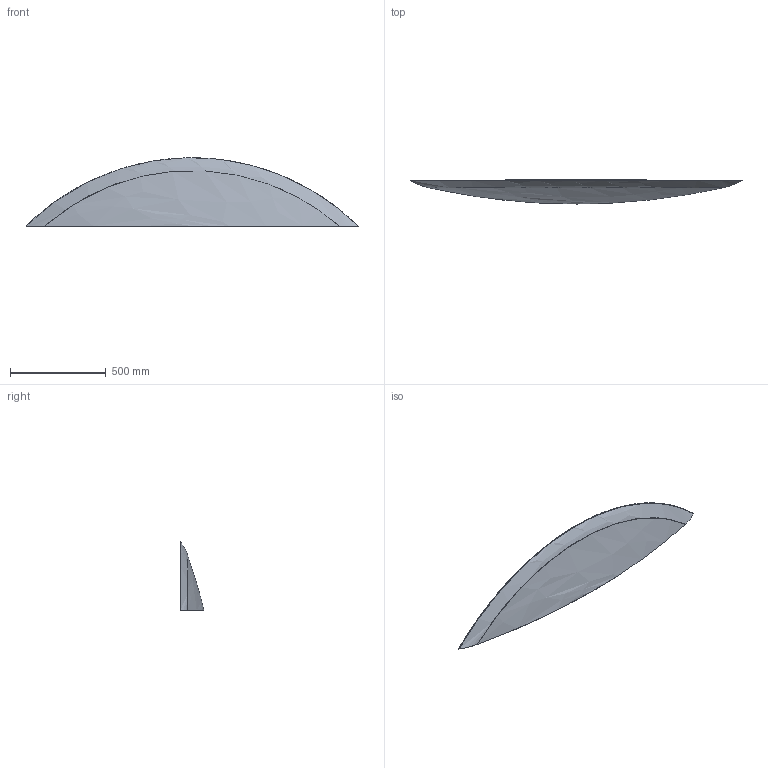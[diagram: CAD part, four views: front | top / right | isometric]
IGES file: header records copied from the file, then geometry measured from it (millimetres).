
Start section: SolidWorks IGES file using analytic representation for surfaces
Global section: file name: C:\Users\Stagiaire\Desktop\Rendu 3D\1523\1523.IGS; native system: SolidWorks 2014; preprocessor: SolidWorks 2014; author: Stagiaire; date: 140917.095224; units: millimetre
Bounding box: 1734.99 x 125 x 357.18 mm (x, y, z)
Surface area: 1201182.6 mm2 (no closed solid volume)
Topology: 0 solids, 0 shells, 9 faces, 167 edges, 167 vertices
Faces by surface type: bspline 9
